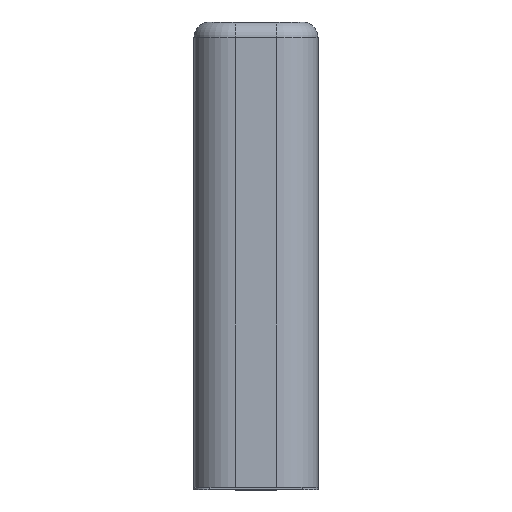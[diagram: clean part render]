
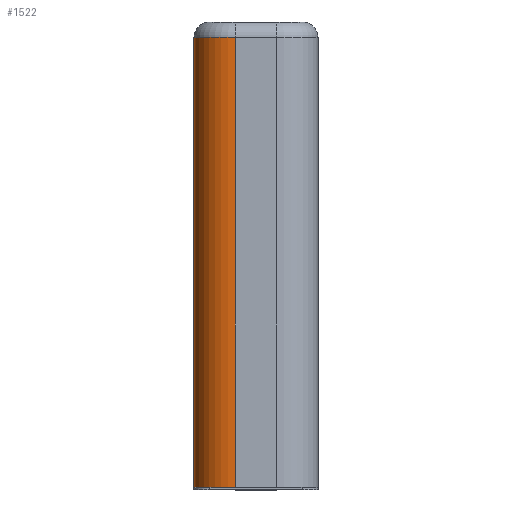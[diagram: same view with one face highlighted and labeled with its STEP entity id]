
A CAD part, top view. The second image highlights one B-rep face of the part: STEP entity #1522.
In plain terms, the highlighted cylindrical face has radius 2.667 mm (diameter 5.333 mm), a partial arc.
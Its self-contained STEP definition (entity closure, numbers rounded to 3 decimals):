
#7 = CARTESIAN_POINT ( 'NONE',  ( -5., 0., -1.333 ) ) ;
#35 = CIRCLE ( 'NONE', #309, 2.667 ) ;
#78 = VERTEX_POINT ( 'NONE', #7 ) ;
#83 = DIRECTION ( 'NONE',  ( 0., 0., -1. ) ) ;
#125 = CARTESIAN_POINT ( 'NONE',  ( -2.333, 0., -4. ) ) ;
#135 = EDGE_CURVE ( 'NONE', #1949, #611, #815, .T. ) ;
#237 = CARTESIAN_POINT ( 'NONE',  ( -5., 30., -1.333 ) ) ;
#309 = AXIS2_PLACEMENT_3D ( 'NONE', #671, #1172, #828 ) ;
#566 = EDGE_CURVE ( 'NONE', #2054, #78, #1367, .T. ) ;
#603 = ORIENTED_EDGE ( 'NONE', *, *, #827, .T. ) ;
#611 = VERTEX_POINT ( 'NONE', #125 ) ;
#615 = VECTOR ( 'NONE', #1270, 1000. ) ;
#637 = AXIS2_PLACEMENT_3D ( 'NONE', #1621, #912, #83 ) ;
#671 = CARTESIAN_POINT ( 'NONE',  ( -2.333, 0., -1.333 ) ) ;
#815 = LINE ( 'NONE', #1496, #1518 ) ;
#821 = FACE_OUTER_BOUND ( 'NONE', #1387, .T. ) ;
#827 = EDGE_CURVE ( 'NONE', #611, #78, #35, .T. ) ;
#828 = DIRECTION ( 'NONE',  ( 0., 0., 1. ) ) ;
#912 = DIRECTION ( 'NONE',  ( 0., -1., 0. ) ) ;
#949 = ORIENTED_EDGE ( 'NONE', *, *, #1569, .T. ) ;
#985 = CARTESIAN_POINT ( 'NONE',  ( -2.333, 29., -4. ) ) ;
#1096 = DIRECTION ( 'NONE',  ( 0., 0., 1. ) ) ;
#1115 = CIRCLE ( 'NONE', #1307, 2.667 ) ;
#1168 = CYLINDRICAL_SURFACE ( 'NONE', #637, 2.667 ) ;
#1172 = DIRECTION ( 'NONE',  ( 0., 1., 0. ) ) ;
#1270 = DIRECTION ( 'NONE',  ( 0., -1., 0. ) ) ;
#1273 = ORIENTED_EDGE ( 'NONE', *, *, #135, .T. ) ;
#1307 = AXIS2_PLACEMENT_3D ( 'NONE', #1950, #1428, #1096 ) ;
#1367 = LINE ( 'NONE', #237, #615 ) ;
#1387 = EDGE_LOOP ( 'NONE', ( #1475, #949, #1273, #603 ) ) ;
#1428 = DIRECTION ( 'NONE',  ( 0., -1., 0. ) ) ;
#1475 = ORIENTED_EDGE ( 'NONE', *, *, #566, .F. ) ;
#1496 = CARTESIAN_POINT ( 'NONE',  ( -2.333, 30., -4. ) ) ;
#1518 = VECTOR ( 'NONE', #1703, 1000. ) ;
#1522 = ADVANCED_FACE ( 'NONE', ( #821 ), #1168, .T. ) ;
#1569 = EDGE_CURVE ( 'NONE', #2054, #1949, #1115, .T. ) ;
#1621 = CARTESIAN_POINT ( 'NONE',  ( -2.333, 30., -1.333 ) ) ;
#1703 = DIRECTION ( 'NONE',  ( 0., -1., 0. ) ) ;
#1896 = CARTESIAN_POINT ( 'NONE',  ( -5., 29., -1.333 ) ) ;
#1949 = VERTEX_POINT ( 'NONE', #985 ) ;
#1950 = CARTESIAN_POINT ( 'NONE',  ( -2.333, 29., -1.333 ) ) ;
#2054 = VERTEX_POINT ( 'NONE', #1896 ) ;
